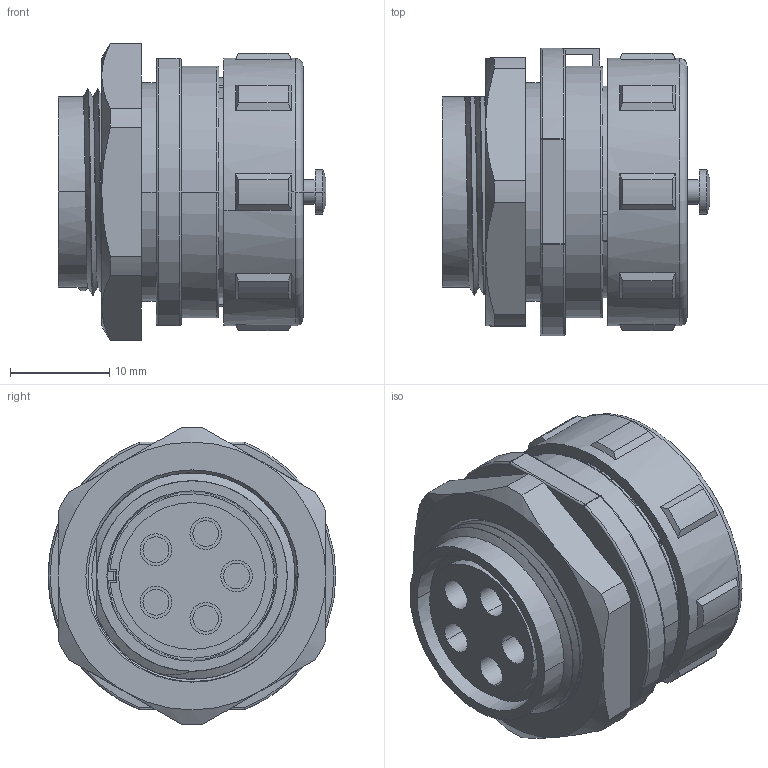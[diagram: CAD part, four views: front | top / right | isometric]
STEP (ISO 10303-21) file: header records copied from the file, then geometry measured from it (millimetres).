
FILE_DESCRIPTION((''),'2;1');
FILE_NAME('SY2112','2016-11-30T',('Administrator'),(''),'PRO/ENGINEER BY PARAMETRIC TECHNOLOGY CORPORATION, 2015240','PRO/ENGINEER BY PARAMETRIC TECHNOLOGY CORPORATION, 2015240','');
FILE_SCHEMA(('CONFIG_CONTROL_DESIGN'));
Length unit declared in the file: millimetre
Products named in the file (1): SY2112
Bounding box: 27 x 29 x 29.99 mm (x, y, z)
Volume: 7855.9 mm3; surface area: 9089 mm2
Topology: 1 solids, 1 shells, 314 faces, 805 edges, 512 vertices
Faces by surface type: cylinder 118, plane 108, cone 38, bspline 29, torus 11, sphere 10
Entity records: 13465 total; most frequent: CARTESIAN_POINT 5969, ORIENTED_EDGE 1590, DIRECTION 1511, EDGE_CURVE 795, AXIS2_PLACEMENT_3D 602, VERTEX_POINT 512, EDGE_LOOP 357, CIRCLE 317
